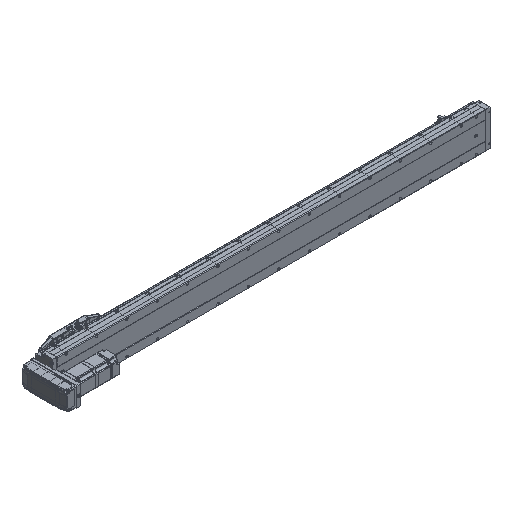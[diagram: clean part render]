
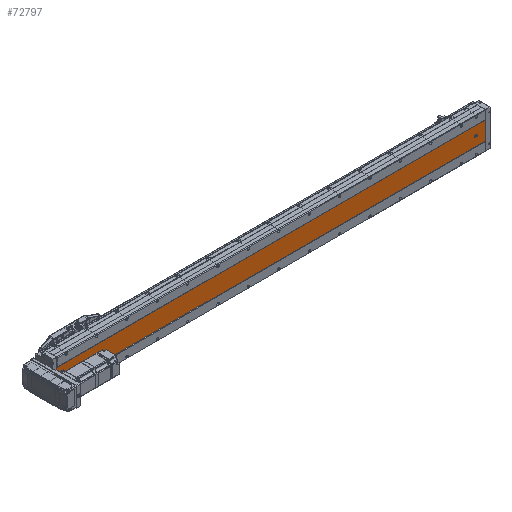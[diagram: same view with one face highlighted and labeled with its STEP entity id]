
A CAD part, isometric view. The second image highlights one B-rep face of the part: STEP entity #72797.
In plain terms, the highlighted planar face has unit normal (0, -1, 0).
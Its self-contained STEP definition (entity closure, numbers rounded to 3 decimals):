
#246 = DIRECTION ( 'NONE',  ( 1., 0., 0. ) ) ;
#2619 = DIRECTION ( 'NONE',  ( 0., 0., -1. ) ) ;
#2769 = AXIS2_PLACEMENT_3D ( 'NONE', #28767, #49356, #23135 ) ;
#3605 = DIRECTION ( 'NONE',  ( 0., 0., -1. ) ) ;
#4609 = DIRECTION ( 'NONE',  ( 0., 0., 1. ) ) ;
#6345 = FACE_BOUND ( 'NONE', #41416, .T. ) ;
#7786 = CARTESIAN_POINT ( 'NONE',  ( -39.892, -52.848, 1281. ) ) ;
#8027 = CARTESIAN_POINT ( 'NONE',  ( -36.392, -52.848, 30. ) ) ;
#8893 = VECTOR ( 'NONE', #246, 1000. ) ;
#9148 = AXIS2_PLACEMENT_3D ( 'NONE', #13302, #19996, #26778 ) ;
#9602 = DIRECTION ( 'NONE',  ( 0., 1., 0. ) ) ;
#9777 = AXIS2_PLACEMENT_3D ( 'NONE', #7786, #48943, #68598 ) ;
#10576 = VERTEX_POINT ( 'NONE', #37333 ) ;
#10583 = FACE_BOUND ( 'NONE', #50872, .T. ) ;
#11634 = VERTEX_POINT ( 'NONE', #22472 ) ;
#13302 = CARTESIAN_POINT ( 'NONE',  ( -69.892, -52.848, 1411. ) ) ;
#13609 = CARTESIAN_POINT ( 'NONE',  ( -69.892, -52.848, 1411. ) ) ;
#14746 = EDGE_CURVE ( 'NONE', #56407, #54276, #45088, .T. ) ;
#15926 = EDGE_CURVE ( 'NONE', #57109, #11634, #84698, .T. ) ;
#16630 = CARTESIAN_POINT ( 'NONE',  ( -39.892, -52.848, 1381. ) ) ;
#18892 = VERTEX_POINT ( 'NONE', #59367 ) ;
#19968 = FACE_OUTER_BOUND ( 'NONE', #75002, .T. ) ;
#19996 = DIRECTION ( 'NONE',  ( 0., 1., 0. ) ) ;
#20327 = DIRECTION ( 'NONE',  ( 1., 0., 0. ) ) ;
#20833 = VECTOR ( 'NONE', #26722, 1000. ) ;
#21414 = VECTOR ( 'NONE', #3605, 1000. ) ;
#22232 = ORIENTED_EDGE ( 'NONE', *, *, #76055, .T. ) ;
#22472 = CARTESIAN_POINT ( 'NONE',  ( -36.392, -52.848, 32. ) ) ;
#22788 = CARTESIAN_POINT ( 'NONE',  ( -39.892, -52.848, 32. ) ) ;
#23135 = DIRECTION ( 'NONE',  ( 0., 0., 1. ) ) ;
#23406 = DIRECTION ( 'NONE',  ( 0., 1., 0. ) ) ;
#24209 = FACE_BOUND ( 'NONE', #29826, .T. ) ;
#24511 = VERTEX_POINT ( 'NONE', #70974 ) ;
#25059 = LINE ( 'NONE', #67036, #20833 ) ;
#25105 = EDGE_CURVE ( 'NONE', #30016, #24511, #62509, .T. ) ;
#25701 = CARTESIAN_POINT ( 'NONE',  ( -9.892, -52.848, 0. ) ) ;
#26235 = AXIS2_PLACEMENT_3D ( 'NONE', #50052, #43217, #64417 ) ;
#26722 = DIRECTION ( 'NONE',  ( 0., 0., -1. ) ) ;
#26778 = DIRECTION ( 'NONE',  ( 0., 0., 1. ) ) ;
#26970 = VECTOR ( 'NONE', #65100, 1000. ) ;
#28159 = EDGE_CURVE ( 'NONE', #83647, #18892, #82028, .T. ) ;
#28511 = EDGE_CURVE ( 'NONE', #24511, #30016, #50467, .T. ) ;
#28767 = CARTESIAN_POINT ( 'NONE',  ( -39.892, -52.848, 1381. ) ) ;
#28941 = ORIENTED_EDGE ( 'NONE', *, *, #51374, .T. ) ;
#29718 = CARTESIAN_POINT ( 'NONE',  ( -9.892, -52.848, 1411. ) ) ;
#29826 = EDGE_LOOP ( 'NONE', ( #42644, #72498 ) ) ;
#30016 = VERTEX_POINT ( 'NONE', #59489 ) ;
#30884 = ORIENTED_EDGE ( 'NONE', *, *, #34697, .T. ) ;
#31958 = LINE ( 'NONE', #61420, #8893 ) ;
#32774 = CIRCLE ( 'NONE', #82039, 3.5 ) ;
#33909 = DIRECTION ( 'NONE',  ( 0., 0., 1. ) ) ;
#34697 = EDGE_CURVE ( 'NONE', #10576, #74770, #76912, .T. ) ;
#37333 = CARTESIAN_POINT ( 'NONE',  ( -39.892, -52.848, 26.5 ) ) ;
#37908 = DIRECTION ( 'NONE',  ( 0., 1., 0. ) ) ;
#38369 = LINE ( 'NONE', #82624, #21414 ) ;
#40122 = VERTEX_POINT ( 'NONE', #29718 ) ;
#40234 = CARTESIAN_POINT ( 'NONE',  ( -69.892, -52.848, 0. ) ) ;
#40364 = DIRECTION ( 'NONE',  ( 0., 1., 0. ) ) ;
#41003 = CARTESIAN_POINT ( 'NONE',  ( -69.892, -52.848, 1411. ) ) ;
#41123 = ORIENTED_EDGE ( 'NONE', *, *, #28159, .T. ) ;
#41416 = EDGE_LOOP ( 'NONE', ( #41123, #28941 ) ) ;
#41667 = CARTESIAN_POINT ( 'NONE',  ( -43.392, -52.848, 30. ) ) ;
#42079 = ORIENTED_EDGE ( 'NONE', *, *, #14746, .T. ) ;
#42197 = ORIENTED_EDGE ( 'NONE', *, *, #63547, .T. ) ;
#42289 = EDGE_CURVE ( 'NONE', #40122, #73819, #25059, .T. ) ;
#42644 = ORIENTED_EDGE ( 'NONE', *, *, #25105, .T. ) ;
#43217 = DIRECTION ( 'NONE',  ( 0., 1., 0. ) ) ;
#44484 = CARTESIAN_POINT ( 'NONE',  ( -43.392, -52.848, 1411. ) ) ;
#45088 = LINE ( 'NONE', #62618, #82855 ) ;
#45299 = VECTOR ( 'NONE', #20327, 1000. ) ;
#45711 = VERTEX_POINT ( 'NONE', #8027 ) ;
#46342 = ORIENTED_EDGE ( 'NONE', *, *, #64842, .T. ) ;
#46559 = ORIENTED_EDGE ( 'NONE', *, *, #50332, .T. ) ;
#46578 = AXIS2_PLACEMENT_3D ( 'NONE', #22788, #9602, #4609 ) ;
#46806 = PLANE ( 'NONE',  #9148 ) ;
#48943 = DIRECTION ( 'NONE',  ( 0., 1., 0. ) ) ;
#49356 = DIRECTION ( 'NONE',  ( 0., 1., 0. ) ) ;
#50052 = CARTESIAN_POINT ( 'NONE',  ( -39.892, -52.848, 30. ) ) ;
#50332 = EDGE_CURVE ( 'NONE', #45711, #10576, #32774, .T. ) ;
#50467 = CIRCLE ( 'NONE', #9777, 3.5 ) ;
#50872 = EDGE_LOOP ( 'NONE', ( #60258, #22232, #46559, #30884, #42197 ) ) ;
#51374 = EDGE_CURVE ( 'NONE', #18892, #83647, #77775, .T. ) ;
#51471 = CARTESIAN_POINT ( 'NONE',  ( -43.392, -52.848, 32. ) ) ;
#54276 = VERTEX_POINT ( 'NONE', #40234 ) ;
#56407 = VERTEX_POINT ( 'NONE', #41003 ) ;
#57109 = VERTEX_POINT ( 'NONE', #51471 ) ;
#59367 = CARTESIAN_POINT ( 'NONE',  ( -39.892, -52.848, 1384.5 ) ) ;
#59489 = CARTESIAN_POINT ( 'NONE',  ( -39.892, -52.848, 1277.5 ) ) ;
#60258 = ORIENTED_EDGE ( 'NONE', *, *, #15926, .T. ) ;
#61420 = CARTESIAN_POINT ( 'NONE',  ( -69.892, -52.848, 0. ) ) ;
#62509 = CIRCLE ( 'NONE', #72074, 3.5 ) ;
#62618 = CARTESIAN_POINT ( 'NONE',  ( -69.892, -52.848, 1411. ) ) ;
#63252 = LINE ( 'NONE', #13609, #45299 ) ;
#63547 = EDGE_CURVE ( 'NONE', #74770, #57109, #84775, .T. ) ;
#64417 = DIRECTION ( 'NONE',  ( 0., 0., 1. ) ) ;
#64842 = EDGE_CURVE ( 'NONE', #54276, #73819, #31958, .T. ) ;
#65100 = DIRECTION ( 'NONE',  ( 0., 0., 1. ) ) ;
#65610 = DIRECTION ( 'NONE',  ( 0., 0., 1. ) ) ;
#67036 = CARTESIAN_POINT ( 'NONE',  ( -9.892, -52.848, 1411. ) ) ;
#68598 = DIRECTION ( 'NONE',  ( 0., 0., 1. ) ) ;
#70463 = DIRECTION ( 'NONE',  ( 0., 0., 1. ) ) ;
#70974 = CARTESIAN_POINT ( 'NONE',  ( -39.892, -52.848, 1284.5 ) ) ;
#72074 = AXIS2_PLACEMENT_3D ( 'NONE', #78243, #37908, #65610 ) ;
#72498 = ORIENTED_EDGE ( 'NONE', *, *, #28511, .T. ) ;
#72797 = ADVANCED_FACE ( 'NONE', ( #10583, #24209, #6345, #19968 ), #46806, .F. ) ;
#73819 = VERTEX_POINT ( 'NONE', #25701 ) ;
#73930 = CARTESIAN_POINT ( 'NONE',  ( -39.892, -52.848, 30. ) ) ;
#74770 = VERTEX_POINT ( 'NONE', #41667 ) ;
#75002 = EDGE_LOOP ( 'NONE', ( #46342, #86036, #84876, #42079 ) ) ;
#76055 = EDGE_CURVE ( 'NONE', #11634, #45711, #38369, .T. ) ;
#76912 = CIRCLE ( 'NONE', #26235, 3.5 ) ;
#77775 = CIRCLE ( 'NONE', #2769, 3.5 ) ;
#78243 = CARTESIAN_POINT ( 'NONE',  ( -39.892, -52.848, 1281. ) ) ;
#81210 = AXIS2_PLACEMENT_3D ( 'NONE', #16630, #23406, #70463 ) ;
#82028 = CIRCLE ( 'NONE', #81210, 3.5 ) ;
#82039 = AXIS2_PLACEMENT_3D ( 'NONE', #73930, #40364, #33909 ) ;
#82624 = CARTESIAN_POINT ( 'NONE',  ( -36.392, -52.848, 1411. ) ) ;
#82855 = VECTOR ( 'NONE', #2619, 1000. ) ;
#83647 = VERTEX_POINT ( 'NONE', #86723 ) ;
#83692 = EDGE_CURVE ( 'NONE', #56407, #40122, #63252, .T. ) ;
#84698 = CIRCLE ( 'NONE', #46578, 3.5 ) ;
#84775 = LINE ( 'NONE', #44484, #26970 ) ;
#84876 = ORIENTED_EDGE ( 'NONE', *, *, #83692, .F. ) ;
#86036 = ORIENTED_EDGE ( 'NONE', *, *, #42289, .F. ) ;
#86723 = CARTESIAN_POINT ( 'NONE',  ( -39.892, -52.848, 1377.5 ) ) ;
